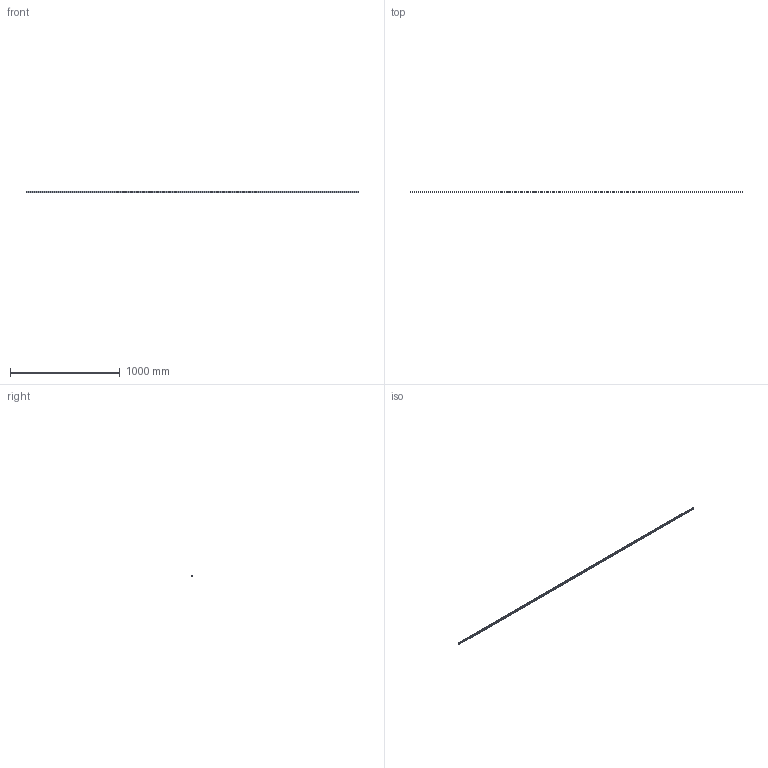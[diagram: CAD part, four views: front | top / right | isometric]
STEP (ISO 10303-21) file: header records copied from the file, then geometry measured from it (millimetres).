
FILE_DESCRIPTION (( 'STEP AP203' ), '1' );
FILE_NAME ('Halfround Profile.STEP', '2026-04-20T14:04:50', ( '' ), ( '' ), 'SwSTEP 2.0', 'SolidWorks 2025', '' );
FILE_SCHEMA (( 'CONFIG_CONTROL_DESIGN' ));
Length unit declared in the file: millimetre
Products named in the file (1): Halfround Profile
Bounding box: 3020 x 9.01 x 18.01 mm (x, y, z)
Volume: 174544.4 mm3; surface area: 258233.4 mm2
Topology: 1 solids, 1 shells, 68 faces, 198 edges, 132 vertices
Faces by surface type: cylinder 37, plane 31
Entity records: 2353 total; most frequent: DIRECTION 410, CARTESIAN_POINT 399, ORIENTED_EDGE 396, EDGE_CURVE 198, AXIS2_PLACEMENT_3D 143, VERTEX_POINT 132, LINE 124, VECTOR 124
